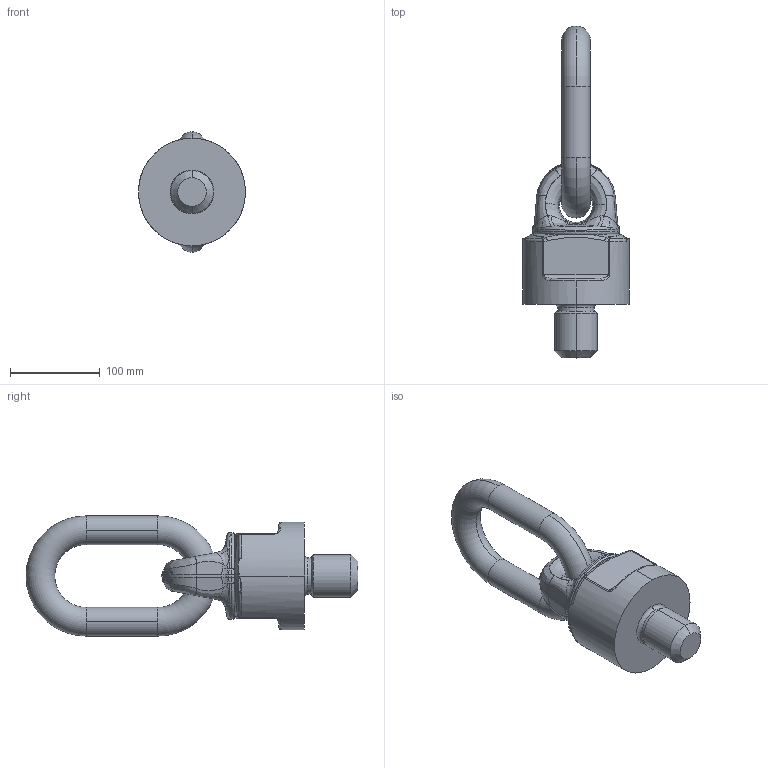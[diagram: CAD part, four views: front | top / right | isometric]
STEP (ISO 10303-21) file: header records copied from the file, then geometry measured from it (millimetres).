
FILE_DESCRIPTION(('STEP AP214'),'1');
FILE_NAME('c8001504860.stp','2017-03-22T14:26:52',('TraceParts'),('TraceParts S.A.'),'Spatial InterOp 3D',' ',' ');
FILE_SCHEMA(('automotive_design'));
Length unit declared in the file: millimetre
Products named in the file (3): c8001504860_1; c8001504860_2; c8001504860_3
Bounding box: 118.98 x 370 x 134 mm (x, y, z)
Volume: 1520721.1 mm3; surface area: 137135.6 mm2
Topology: 3 solids, 3 shells, 358 faces, 1008 edges, 637 vertices
Faces by surface type: bspline 205, plane 70, cylinder 67, cone 6, torus 6, sphere 4
Entity records: 29036 total; most frequent: CARTESIAN_POINT 18307, ORIENTED_EDGE 1984, DIRECTION 1170, EDGE_CURVE 992, VERTEX_POINT 637, AXIS2_PLACEMENT_3D 471, B_SPLINE_CURVE_WITH_KNOTS 448, STYLED_ITEM 361
